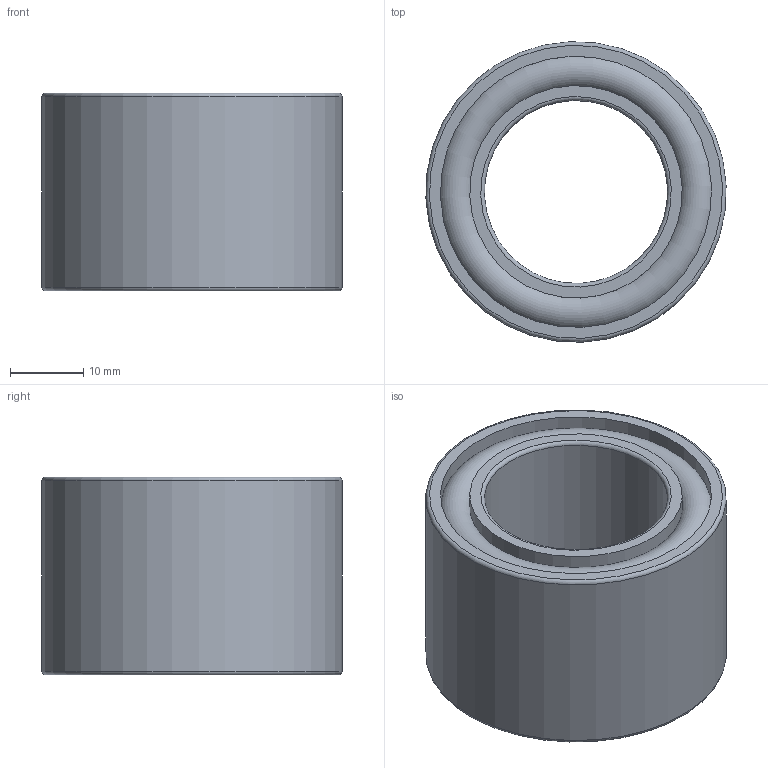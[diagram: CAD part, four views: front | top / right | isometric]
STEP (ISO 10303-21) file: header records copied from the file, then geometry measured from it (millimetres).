
FILE_DESCRIPTION(/* description */ (''),/* implementation_level */ '2;1');
FILE_NAME(/* name */ '300673 FP 437 M.stp',/* time_stamp */ '2016-11-17T13:47:30+01:00',/* author */ (''),/* organization */ (''),/* preprocessor_version */ 'ST-DEVELOPER v15',/* originating_system */ 'SIEMENS PLM Software NX 8.5',/* authorisation */ '');
FILE_SCHEMA (('CONFIG_CONTROL_DESIGN'));
Length unit declared in the file: millimetre
Products named in the file (3): ATE0000080_01; ATE0000093_01; ATE0000095_01
Assembly tree (2 placements, depth 2):
  ATE0000095_01
    ATE0000093_01
    ATE0000080_01
Bounding box: 40.96 x 40.96 x 27 mm (x, y, z)
Volume: 17221.9 mm3; surface area: 17897.1 mm2
Topology: 3 solids, 3 shells, 72 faces, 157 edges, 103 vertices
Faces by surface type: plane 44, cylinder 22, torus 6
Full cylindrical faces by diameter (mm): 25 x1, 29 x3, 33 x1, 34 x1, 35 x1, 36 x2, 37 x4, 41 x1
Entity records: 2128 total; most frequent: DIRECTION 342, CARTESIAN_POINT 299, ORIENTED_EDGE 256, AXIS2_PLACEMENT_3D 139, EDGE_CURVE 128, EDGE_LOOP 112, VERTEX_POINT 96, ADVANCED_FACE 72
